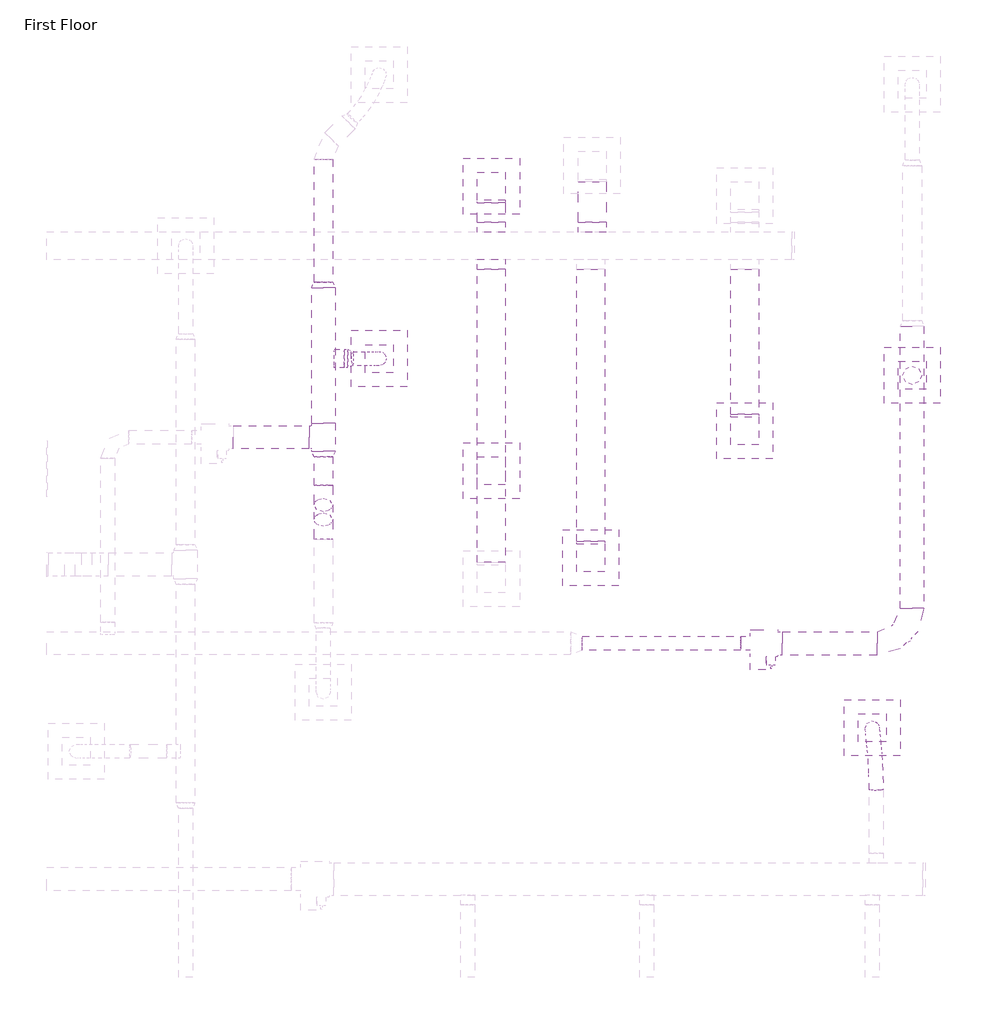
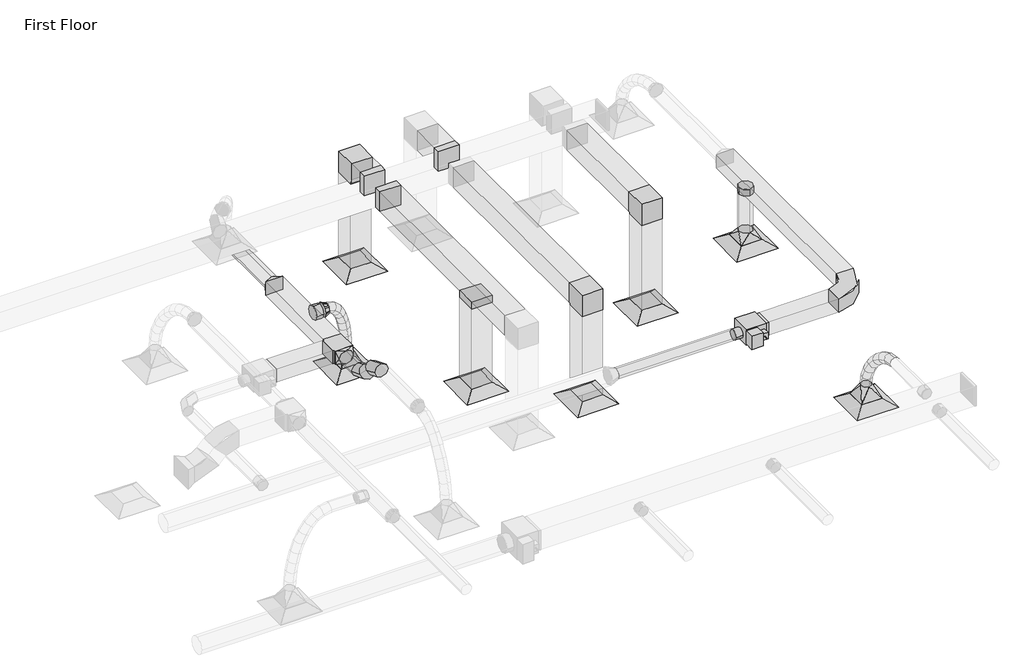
# One storey, part 57 of 61: 21 duct segments, 19 duct fittings, 7 air terminals, 1 proxy.
"""IFC4 building model written with IfcOpenShell, lengths in millimetres."""

from ifc_helpers import new_model, si_unit, point, frame, frame_2d, origin, place, context, project, spatial, polyline, circle_curve, ellipse_curve, trimmed, segment, composite_curve, outline, extrude, transform, mapped, element, save
from ifc_brep_helpers import plane_surface, cylinder_surface, advanced_brep
from components import m_exhaust_grill_er_600_x_600_face_300_x_300_connection_ff221211, m_vav_unit_single_duct_150_mm_ffdab17b, m_rectangular_elbow_mitered_standard_8eee5933, m_rectangular_elbow_radius_1_5_w_8951400e, m_rectangular_takeoff_standard_c00386d1, m_rectangular_takeoff_standard_b44bfa45, m_rectangular_tee_standard_9ab6ba4f, m_rectangular_to_round_transition_angle_45_degree_8f201c83, m_rectangular_to_round_transition_angle_45_degree_9bcfcd89, m_rectangular_to_round_transition_angle_45_degree_60daae35, m_round_elbow_1_5_d_f3829448, m_round_takeoff_standard_8efdd074, m_round_transition_angle_45_degree_6d7b59ce

model = new_model("IFC4")

# Units and contexts
model_context = context("Model", 3, world=origin())
ifc_project = project(units=[si_unit("LENGTHUNIT", "METRE", prefix="MILLI")], contexts=[model_context])

# Site, building, storey
site = spatial("IfcSite", under=ifc_project)
building = spatial("IfcBuilding", under=site)
storey = spatial("IfcBuildingStorey", under=building, Name="First Floor", Elevation=0.0)

# Air terminals
placement = place(None, origin())
m_exhaust_grill_er_600_x_600_face_300_x_300_connection_shape = m_exhaust_grill_er_600_x_600_face_300_x_300_connection_ff221211(model_context)
element("IfcAirTerminal", 1, ObjectType="M_Return Register : RR-600 x 600 Face 300 x 300 Connection", at=placement, inside=storey, context=model_context, shape_type="MappedRepresentation", body=[
    mapped(m_exhaust_grill_er_600_x_600_face_300_x_300_connection_shape, transform((-2290.8234501, 45229.9702326, 2680.0), x_axis=(1.0, 0.0, 0.0), y_axis=(0.0, 1.0, 0.0), z_axis=(0.0, 0.0, 1.0))),
])
element("IfcAirTerminal", 2, ObjectType="M_Return Register : RR-600 x 600 Face 300 x 300 Connection", at=placement, inside=storey, context=model_context, shape_type="MappedRepresentation", body=[
    mapped(m_exhaust_grill_er_600_x_600_face_300_x_300_connection_shape, transform((-3939.6335034, 43871.7194826, 2680.0), x_axis=(1.0, 0.0, 0.0), y_axis=(0.0, 1.0, 0.0), z_axis=(0.0, 0.0, 1.0))),
])
element("IfcAirTerminal", 3, ObjectType="M_Return Register : RR-600 x 600 Face 300 x 300 Connection", at=placement, inside=storey, context=model_context, shape_type="MappedRepresentation", body=[
    mapped(m_exhaust_grill_er_600_x_600_face_300_x_300_connection_shape, transform((-5002.6412206, 44802.4095969, 2680.0), x_axis=(1.0, 0.0, 0.0), y_axis=(0.0, 1.0, 0.0), z_axis=(0.0, 0.0, 1.0))),
])
element("IfcAirTerminal", 4, ObjectType="M_Return Register : RR-600 x 600 Face 300 x 300 Connection", at=placement, inside=storey, context=model_context, shape_type="MappedRepresentation", body=[
    mapped(m_exhaust_grill_er_600_x_600_face_300_x_300_connection_shape, transform((-5002.6412206, 47845.6191472, 2680.0), x_axis=(1.0, 0.0, 0.0), y_axis=(0.0, 1.0, 0.0), z_axis=(0.0, 0.0, 1.0))),
])
element("IfcAirTerminal", 5, ObjectType="M_Supply Diffuser : SD-600 x 600 Face 300 x 300 Connection", at=placement, inside=storey, context=model_context, shape_type="MappedRepresentation", body=[
    mapped(m_exhaust_grill_er_600_x_600_face_300_x_300_connection_shape, transform((-928.6121284, 42051.1053129, 2680.0), x_axis=(1.0, 0.0, 0.0), y_axis=(0.0, 1.0, 0.0), z_axis=(0.0, 0.0, 1.0))),
])
element("IfcAirTerminal", 6, ObjectType="M_Supply Diffuser : SD-600 x 600 Face 300 x 300 Connection", at=placement, inside=storey, context=model_context, shape_type="MappedRepresentation", body=[
    mapped(m_exhaust_grill_er_600_x_600_face_300_x_300_connection_shape, transform((-500.5154255, 45823.3479879, 2680.0), x_axis=(1.0, 0.0, 0.0), y_axis=(0.0, 1.0, 0.0), z_axis=(0.0, 0.0, 1.0))),
])
element("IfcAirTerminal", 7, ObjectType="M_Supply Diffuser : SD-600 x 600 Face 300 x 300 Connection", at=placement, inside=storey, context=model_context, shape_type="MappedRepresentation", body=[
    mapped(m_exhaust_grill_er_600_x_600_face_300_x_300_connection_shape, transform((-6203.7010885, 46003.833345, 2680.0), x_axis=(1.0, 0.0, 0.0), y_axis=(0.0, 1.0, 0.0), z_axis=(0.0, 0.0, 1.0))),
])

# Proxy
m_vav_unit_single_duct_150_mm_shape = m_vav_unit_single_duct_150_mm_ffdab17b(model_context)
element("IfcBuildingElementProxy", 8, Name="M_VAV Unit - Single Duct : 150 mm", ObjectType="M_VAV Unit - Single Duct : 150 mm", at=placement, inside=storey, context=model_context, shape_type="MappedRepresentation", body=[
    mapped(m_vav_unit_single_duct_150_mm_shape, transform((-2232.1936031, 42955.3220978, 3550.075), x_axis=(1.0, 0.0, 0.0), y_axis=(0.0, 1.0, 0.0), z_axis=(0.0, 0.0, 1.0))),
])

# Duct fittings
m_rectangular_elbow_mitered_standard_shape = m_rectangular_elbow_mitered_standard_8eee5933(model_context)
element("IfcDuctFitting", 9, ObjectType="M_Rectangular Elbow - Mitered : Standard", at=placement, inside=storey, context=model_context, shape_type="MappedRepresentation", body=[
    mapped(m_rectangular_elbow_mitered_standard_shape, transform((-5002.6412206, 47845.6191472, 4259.5), x_axis=(0.0, 0.0, 1.0), y_axis=(0.0, -1.0, 0.0), z_axis=(1.0, 0.0, 0.0))),
])
element("IfcDuctFitting", 10, ObjectType="M_Rectangular Elbow - Mitered : Standard", at=placement, inside=storey, context=model_context, shape_type="MappedRepresentation", body=[
    mapped(m_rectangular_elbow_mitered_standard_shape, transform((-2290.8234501, 45229.9702326, 4259.5), x_axis=(0.0, 0.0, 1.0), y_axis=(0.0, 1.0, 0.0), z_axis=(-1.0, 0.0, 0.0))),
])
element("IfcDuctFitting", 11, ObjectType="M_Rectangular Elbow - Mitered : Standard", at=placement, inside=storey, context=model_context, shape_type="MappedRepresentation", body=[
    mapped(m_rectangular_elbow_mitered_standard_shape, transform((-3939.6335034, 43871.7194826, 4259.5), x_axis=(0.0, 0.0, 1.0), y_axis=(0.0, 1.0, 0.0), z_axis=(-1.0, 0.0, 0.0))),
])
m_rectangular_elbow_radius_1_5_w_shape = m_rectangular_elbow_radius_1_5_w_8951400e(model_context)
element("IfcDuctFitting", 12, ObjectType="M_Rectangular Elbow - Radius : 1.5 W", at=placement, inside=storey, context=model_context, shape_type="MappedRepresentation", body=[
    mapped(m_rectangular_elbow_radius_1_5_w_shape, transform((-500.5154255, 42955.3220978, 3669.1), x_axis=(0.9999999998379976, 0.0, -1.8000138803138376e-05), y_axis=(0.0, 1.0000000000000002, 0.0), z_axis=(1.8000138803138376e-05, 0.0, 0.9999999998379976))),
])
m_rectangular_takeoff_standard_shape = m_rectangular_takeoff_standard_c00386d1(model_context)
element("IfcDuctFitting", 13, ObjectType="M_Rectangular Takeoff : Standard", at=placement, inside=storey, context=model_context, shape_type="MappedRepresentation", body=[
    mapped(m_rectangular_takeoff_standard_shape, transform((-3926.5709793, 47361.3321421, 4259.5), x_axis=(0.0, 1.0, 0.0), y_axis=(1.0, 0.0, 0.0), z_axis=(0.0, 0.0, -1.0))),
])
element("IfcDuctFitting", 14, ObjectType="M_Rectangular Takeoff : Standard", at=placement, inside=storey, context=model_context, shape_type="MappedRepresentation", body=[
    mapped(m_rectangular_takeoff_standard_shape, transform((-5002.6412206, 47361.3321421, 4259.5), x_axis=(0.0, 1.0, 0.0), y_axis=(1.0, 0.0, 0.0), z_axis=(0.0, 0.0, -1.0))),
])
element("IfcDuctFitting", 15, ObjectType="M_Rectangular Takeoff : Standard", at=placement, inside=storey, context=model_context, shape_type="MappedRepresentation", body=[
    mapped(m_rectangular_takeoff_standard_shape, transform((-5002.6412206, 44802.4095969, 4109.5), x_axis=(0.0, 0.0, -1.0), y_axis=(1.0, 0.0, 0.0), z_axis=(0.0, -1.0, 0.0))),
])
m_rectangular_takeoff_standard_2_shape = m_rectangular_takeoff_standard_b44bfa45(model_context)
element("IfcDuctFitting", 16, ObjectType="M_Rectangular Takeoff : Standard", at=placement, inside=storey, context=model_context, shape_type="MappedRepresentation", body=[
    mapped(m_rectangular_takeoff_standard_2_shape, transform((-5002.6412206, 47061.3321421, 4259.5), x_axis=(0.0, -1.0, 0.0), y_axis=(-1.0, 0.0, 0.0), z_axis=(0.0, 0.0, -1.0))),
])
m_rectangular_tee_standard_shape = m_rectangular_tee_standard_9ab6ba4f(model_context)
element("IfcDuctFitting", 17, ObjectType="M_Rectangular Tee : Standard", at=placement, inside=storey, context=model_context, shape_type="MappedRepresentation", body=[
    mapped(m_rectangular_tee_standard_shape, transform((-6801.5698472, 45161.7292765, 3669.1), x_axis=(0.0, -1.0, 0.0), y_axis=(0.9999999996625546, 0.0, -2.5978661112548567e-05), z_axis=(2.5978661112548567e-05, 0.0, 0.9999999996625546))),
])
m_rectangular_to_round_transition_angle_45_degree_shape = m_rectangular_to_round_transition_angle_45_degree_8f201c83(model_context)
element("IfcDuctFitting", 18, ObjectType="M_Rectangular to Round Transition - Angle : 45 Degree", at=placement, inside=storey, context=model_context, shape_type="MappedRepresentation", body=[
    mapped(m_rectangular_to_round_transition_angle_45_degree_shape, transform((-928.6121284, 42051.1053129, 2781.6), x_axis=(0.0, 0.0, 1.0), y_axis=(1.0, 0.0, 0.0), z_axis=(0.0, 1.0, 0.0))),
])
element("IfcDuctFitting", 19, ObjectType="M_Rectangular to Round Transition - Angle : 45 Degree", at=placement, inside=storey, context=model_context, shape_type="MappedRepresentation", body=[
    mapped(m_rectangular_to_round_transition_angle_45_degree_shape, transform((-6203.7010885, 46003.833345, 2781.6), x_axis=(0.0, 0.0, 1.0), y_axis=(1.0, 0.0, 0.0), z_axis=(0.0, 1.0, 0.0))),
])
m_rectangular_to_round_transition_angle_45_degree_2_shape = m_rectangular_to_round_transition_angle_45_degree_9bcfcd89(model_context)
element("IfcDuctFitting", 20, ObjectType="M_Rectangular to Round Transition - Angle : 45 Degree", at=placement, inside=storey, context=model_context, shape_type="MappedRepresentation", body=[
    mapped(m_rectangular_to_round_transition_angle_45_degree_2_shape, transform((-6801.5698472, 46761.7292765, 3669.1), x_axis=(0.0, 1.0, 0.0), y_axis=(-1.0, 0.0, 0.0), z_axis=(0.0, 0.0, 1.0))),
])
element("IfcDuctFitting", 21, ObjectType="M_Rectangular to Round Transition - Angle : 45 Degree", at=placement, inside=storey, context=model_context, shape_type="MappedRepresentation", body=[
    mapped(m_rectangular_to_round_transition_angle_45_degree_2_shape, transform((-6801.5698472, 45011.7292765, 3669.1), x_axis=(0.0, -1.0, 0.0), y_axis=(0.9999999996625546, 0.0, -2.597866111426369e-05), z_axis=(2.597866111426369e-05, 0.0, 0.9999999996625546))),
])
m_rectangular_to_round_transition_angle_45_degree_3_shape = m_rectangular_to_round_transition_angle_45_degree_60daae35(model_context)
element("IfcDuctFitting", 22, ObjectType="M_Rectangular to Round Transition - Angle : 45 Degree", at=placement, inside=storey, context=model_context, shape_type="MappedRepresentation", body=[
    mapped(m_rectangular_to_round_transition_angle_45_degree_3_shape, transform((-500.5154255, 45823.3479879, 2781.6), x_axis=(0.0, 0.0, 1.0), y_axis=(-1.0, 0.0, 0.0), z_axis=(0.0, -1.0, 0.0))),
])
m_round_elbow_1_5_d_shape = m_round_elbow_1_5_d_f3829448(model_context)
element("IfcDuctFitting", 23, ObjectType="M_Round Elbow : 1.5 D", at=placement, inside=storey, context=model_context, shape_type="MappedRepresentation", body=[
    mapped(m_round_elbow_1_5_d_shape, transform((-6801.5698472, 44524.9940525, 3669.1), x_axis=(0.0, -1.0, 0.0), y_axis=(0.0, 0.0, 1.0), z_axis=(-1.0, 0.0, 0.0))),
])
element("IfcDuctFitting", 24, ObjectType="M_Round Elbow : 1.5 D", at=placement, inside=storey, context=model_context, shape_type="MappedRepresentation", body=[
    mapped(m_round_elbow_1_5_d_shape, transform((-6801.5698472, 44194.0940525, 4000.0), x_axis=(0.0, -0.7071067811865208, 0.7071067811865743), y_axis=(0.0, -0.7071067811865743, -0.7071067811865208), z_axis=(1.0, 0.0, 0.0))),
])
m_round_takeoff_standard_shape = m_round_takeoff_standard_8efdd074(model_context)
element("IfcDuctFitting", 25, ObjectType="M_Round Takeoff : Standard", at=placement, inside=storey, context=model_context, shape_type="MappedRepresentation", body=[
    mapped(m_round_takeoff_standard_shape, transform((-500.5154255, 45823.3479879, 3569.1), x_axis=(0.0, 0.0, -1.0), y_axis=(1.0, 0.0, 0.0), z_axis=(0.0, -1.0, 0.0))),
])
element("IfcDuctFitting", 26, ObjectType="M_Round Takeoff : Standard", at=placement, inside=storey, context=model_context, shape_type="MappedRepresentation", body=[
    mapped(m_round_takeoff_standard_shape, transform((-6676.5698472, 46003.833345, 3669.1), x_axis=(1.0, 0.0, 0.0), y_axis=(0.0, -1.0, 0.0), z_axis=(0.0, 0.0, -1.0))),
])
m_round_transition_angle_45_degree_shape = m_round_transition_angle_45_degree_6d7b59ce(model_context)
element("IfcDuctFitting", 27, ObjectType="M_Round Transition - Angle : 45 Degree", at=placement, inside=storey, context=model_context, shape_type="MappedRepresentation", body=[
    mapped(m_round_transition_angle_45_degree_shape, transform((-6541.5698472, 46003.833345, 3669.1), x_axis=(1.0, 0.0, 0.0), y_axis=(0.0, 1.0, 0.0), z_axis=(0.0, 0.0, 1.0))),
])

# Duct segments
element("IfcDuctSegment", 28, ObjectType="Flex - Round", at=placement, inside=storey, context=model_context, shape_type="AdvancedBrep", body=[
    advanced_brep(
    [(-960.3757, 41390.9492283, 3669.1), (-885.1801664, 41380.331664, 3595.0533994), (-810.3982784, 41393.5517308, 3669.1), (-885.593812, 41404.1692952, 3743.1466006), (-962.7529481, 41527.9456521, 3647.0419073), (-887.3992617, 41508.2140324, 3574.4627806), (-812.8098213, 41532.5245015, 3646.7236913), (-888.1635077, 41552.2561212, 3719.302818), (-1003.4773989, 42046.6599466, 2963.3217523), (-932.9239586, 42125.2556275, 2973.0650055), (-853.7468579, 42055.5506792, 2962.0102821), (-924.3002983, 41976.9549982, 2952.2670288), (-968.8604692, 41660.0751678, 3586.2621482), (-892.8053952, 41625.1697984, 3520.6629673), (-819.05234, 41667.5745413, 3584.6004871), (-895.1074139, 41702.4799108, 3650.199668), (-977.253379, 41782.3987263, 3493.9319472), (-900.4284142, 41736.2724814, 3436.8023179), (-827.5462192, 41791.3696916, 3491.1595241), (-904.3711841, 41837.4959366, 3548.2891534), (-986.4298738, 41888.5257717, 3377.704071), (-908.839545, 41833.5480187, 3330.2684078), (-836.7687632, 41898.0293003, 3374.348397), (-914.359092, 41953.0070533, 3421.7840602), (-994.8770723, 41972.1551276, 3245.2912016), (-916.5361819, 41909.7466287, 3209.6208614), (-845.2083538, 41981.5833356, 3242.0547849), (-923.5492442, 42043.9918345, 3277.7251251), (-1001.0757879, 42027.0193162, 3104.3656891), (-922.0543978, 41958.5877855, 3084.1662574), (-851.359678, 42036.0280676, 3102.2066991), (-930.3810681, 42104.4595983, 3122.4061308)],
    [
        (0, 1, circle_curve(frame((-885.3869892, 41392.2504796, 3669.1), z_axis=(0.017129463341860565, -0.9871393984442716, 0.1589414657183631), x_axis=(-0.9998494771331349, -0.01735001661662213, 0.0)), 75.0)),
        (1, 2, circle_curve(frame((-885.3869892, 41392.2504796, 3669.1), z_axis=(0.017129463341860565, -0.9871393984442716, 0.1589414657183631), x_axis=(-0.9998494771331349, -0.01735001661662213, 0.0)), 75.0)),
        (2, 3, circle_curve(frame((-885.3869892, 41392.2504796, 3669.1), z_axis=(0.017129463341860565, -0.9871393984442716, 0.1589414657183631), x_axis=(-0.9998494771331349, -0.01735001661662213, 0.0)), 75.0)),
        (3, 0, circle_curve(frame((-885.3869892, 41392.2504796, 3669.1), z_axis=(0.017129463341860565, -0.9871393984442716, 0.1589414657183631), x_axis=(-0.9998494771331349, -0.01735001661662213, 0.0)), 75.0)),
        (0, 4),
        (4, 5, ellipse_curve(frame((-887.7813847, 41530.2350768, 3646.8827993), z_axis=(0.029819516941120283, -0.9562775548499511, 0.29093647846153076), x_axis=(-0.09139011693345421, -0.2924551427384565, -0.9519022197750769)), 75.7016091, 75.0)),
        (5, 1),
        (5, 6, ellipse_curve(frame((-887.7813847, 41530.2350768, 3646.8827993), z_axis=(0.029819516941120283, -0.9562775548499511, 0.29093647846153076), x_axis=(-0.09139011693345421, -0.2924551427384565, -0.9519022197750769)), 75.7016091, 75.0)),
        (6, 2),
        (6, 7, ellipse_curve(frame((-887.7813847, 41530.2350768, 3646.8827993), z_axis=(0.029819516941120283, -0.9562775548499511, 0.29093647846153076), x_axis=(-0.09139011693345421, -0.2924551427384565, -0.9519022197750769)), 75.7016091, 75.0)),
        (7, 3),
        (7, 4, ellipse_curve(frame((-887.7813847, 41530.2350768, 3646.8827993), z_axis=(0.029819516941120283, -0.9562775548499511, 0.29093647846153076), x_axis=(-0.09139011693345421, -0.2924551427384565, -0.9519022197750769)), 75.7016091, 75.0)),
        (8, 9, circle_curve(frame((-928.6121284, 42051.1053129, 2962.6660172), z_axis=(-0.016862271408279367, 0.13790145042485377, -0.9903024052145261), x_axis=(-0.9982036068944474, -0.05927155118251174, 0.008743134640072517)), 75.0)),
        (9, 10, circle_curve(frame((-928.6121284, 42051.1053129, 2962.6660172), z_axis=(-0.016862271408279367, 0.13790145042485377, -0.9903024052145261), x_axis=(-0.9982036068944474, -0.05927155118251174, 0.008743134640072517)), 75.0)),
        (10, 11, circle_curve(frame((-928.6121284, 42051.1053129, 2962.6660172), z_axis=(-0.016862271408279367, 0.13790145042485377, -0.9903024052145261), x_axis=(-0.9982036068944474, -0.05927155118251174, 0.008743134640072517)), 75.0)),
        (11, 8, circle_curve(frame((-928.6121284, 42051.1053129, 2962.6660172), z_axis=(-0.016862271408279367, 0.13790145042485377, -0.9903024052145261), x_axis=(-0.9982036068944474, -0.05927155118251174, 0.008743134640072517)), 75.0)),
        (4, 12),
        (12, 13, ellipse_curve(frame((-893.9564046, 41663.8248546, 3585.4313176), z_axis=(0.04860113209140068, -0.8573001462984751, 0.512517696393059), x_axis=(-0.05914747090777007, -0.5146938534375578, -0.8553314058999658)), 75.437701, 75.0)),
        (13, 5),
        (13, 14, ellipse_curve(frame((-893.9564046, 41663.8248546, 3585.4313176), z_axis=(0.04860113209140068, -0.8573001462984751, 0.512517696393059), x_axis=(-0.05914747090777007, -0.5146938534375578, -0.8553314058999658)), 75.437701, 75.0)),
        (14, 6),
        (14, 15, ellipse_curve(frame((-893.9564046, 41663.8248546, 3585.4313176), z_axis=(0.04860113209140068, -0.8573001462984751, 0.512517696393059), x_axis=(-0.05914747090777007, -0.5146938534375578, -0.8553314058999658)), 75.437701, 75.0)),
        (15, 7),
        (15, 12, ellipse_curve(frame((-893.9564046, 41663.8248546, 3585.4313176), z_axis=(0.04860113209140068, -0.8573001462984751, 0.512517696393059), x_axis=(-0.05914747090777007, -0.5146938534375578, -0.8553314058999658)), 75.437701, 75.0)),
        (12, 16),
        (16, 17, ellipse_curve(frame((-902.3997991, 41786.884209, 3492.5457357), z_axis=(0.05668286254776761, -0.7381749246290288, 0.6722237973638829), x_axis=(-0.01918059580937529, -0.6739871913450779, -0.738493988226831)), 75.3184009, 75.0)),
        (17, 13),
        (17, 18, ellipse_curve(frame((-902.3997991, 41786.884209, 3492.5457357), z_axis=(0.05668286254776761, -0.7381749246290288, 0.6722237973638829), x_axis=(-0.01918059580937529, -0.6739871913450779, -0.738493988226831)), 75.3184009, 75.0)),
        (18, 14),
        (18, 19, ellipse_curve(frame((-902.3997991, 41786.884209, 3492.5457357), z_axis=(0.05668286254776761, -0.7381749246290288, 0.6722237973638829), x_axis=(-0.01918059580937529, -0.6739871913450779, -0.738493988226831)), 75.3184009, 75.0)),
        (19, 15),
        (19, 16, ellipse_curve(frame((-902.3997991, 41786.884209, 3492.5457357), z_axis=(0.05668286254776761, -0.7381749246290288, 0.6722237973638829), x_axis=(-0.01918059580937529, -0.6739871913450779, -0.738493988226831)), 75.3184009, 75.0)),
        (16, 20),
        (20, 21, ellipse_curve(frame((-911.5993185, 41893.277536, 3376.026234), z_axis=(0.05625088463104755, -0.6055381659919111, 0.793825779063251), x_axis=(0.024660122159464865, -0.793999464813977, -0.6074180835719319)), 75.2928725, 75.0)),
        (21, 17),
        (21, 22, ellipse_curve(frame((-911.5993185, 41893.277536, 3376.026234), z_axis=(0.05625088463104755, -0.6055381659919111, 0.793825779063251), x_axis=(0.024660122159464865, -0.793999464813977, -0.6074180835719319)), 75.2928725, 75.0)),
        (22, 18),
        (22, 23, ellipse_curve(frame((-911.5993185, 41893.277536, 3376.026234), z_axis=(0.05625088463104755, -0.6055381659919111, 0.793825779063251), x_axis=(0.024660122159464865, -0.793999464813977, -0.6074180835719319)), 75.2928725, 75.0)),
        (23, 19),
        (23, 20, ellipse_curve(frame((-911.5993185, 41893.277536, 3376.026234), z_axis=(0.05625088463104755, -0.6055381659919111, 0.793825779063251), x_axis=(0.024660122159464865, -0.793999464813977, -0.6074180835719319)), 75.2928725, 75.0)),
        (20, 24),
        (24, 25, ellipse_curve(frame((-920.0427131, 41976.8692316, 3243.6729933), z_axis=(0.047626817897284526, -0.4499296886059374, 0.891793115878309), x_axis=(0.06721855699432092, -0.889338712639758, -0.45228123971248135)), 75.3479261, 75.0)),
        (25, 21),
        (25, 26, ellipse_curve(frame((-920.0427131, 41976.8692316, 3243.6729933), z_axis=(0.047626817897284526, -0.4499296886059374, 0.891793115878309), x_axis=(0.06721855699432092, -0.889338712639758, -0.45228123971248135)), 75.3479261, 75.0)),
        (26, 22),
        (26, 27, ellipse_curve(frame((-920.0427131, 41976.8692316, 3243.6729933), z_axis=(0.047626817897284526, -0.4499296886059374, 0.891793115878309), x_axis=(0.06721855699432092, -0.889338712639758, -0.45228123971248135)), 75.3479261, 75.0)),
        (27, 23),
        (27, 24, ellipse_curve(frame((-920.0427131, 41976.8692316, 3243.6729933), z_axis=(0.047626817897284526, -0.4499296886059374, 0.891793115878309), x_axis=(0.06721855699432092, -0.889338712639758, -0.45228123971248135)), 75.3479261, 75.0)),
        (24, 28),
        (28, 29, ellipse_curve(frame((-926.2177329, 42031.5236919, 3103.2861941), z_axis=(0.029107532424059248, -0.2519163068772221, 0.9673111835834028), x_axis=(0.10317714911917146, -0.961794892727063, -0.2535844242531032)), 75.5164544, 75.0)),
        (29, 25),
        (29, 30, ellipse_curve(frame((-926.2177329, 42031.5236919, 3103.2861941), z_axis=(0.029107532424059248, -0.2519163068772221, 0.9673111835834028), x_axis=(0.10317714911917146, -0.961794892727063, -0.2535844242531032)), 75.5164544, 75.0)),
        (30, 26),
        (30, 31, ellipse_curve(frame((-926.2177329, 42031.5236919, 3103.2861941), z_axis=(0.029107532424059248, -0.2519163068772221, 0.9673111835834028), x_axis=(0.10317714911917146, -0.961794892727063, -0.2535844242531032)), 75.5164544, 75.0)),
        (31, 27),
        (31, 28, ellipse_curve(frame((-926.2177329, 42031.5236919, 3103.2861941), z_axis=(0.029107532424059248, -0.2519163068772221, 0.9673111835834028), x_axis=(0.10317714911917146, -0.961794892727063, -0.2535844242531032)), 75.5164544, 75.0)),
        (28, 8),
        (11, 29),
        (10, 30),
        (9, 31),
    ],
    [
        plane_surface(frame((-885.3869892, 41404.1728388, 3743.146319), z_axis=(0.017129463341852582, -0.9871393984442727, 0.15894146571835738), x_axis=(0.9998532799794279, 0.016911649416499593, -0.002722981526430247))),
        cylinder_surface(frame((-885.3869892, 41392.2504796, 3669.1), z_axis=(0.01712946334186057, -0.9871393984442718, 0.15894146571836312), x_axis=(-0.9998494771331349, -0.01735001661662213, 0.0)), 75.0),
        plane_surface(frame((-928.6121284, 42125.3885547, 2973.0100967), z_axis=(-0.016862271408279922, 0.13790145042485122, -0.9903024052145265), x_axis=(0.9998578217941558, 0.002325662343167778, -0.01670112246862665))),
        cylinder_surface(frame((-887.7813847, 41530.2350768, 3646.8827993), z_axis=(0.041956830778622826, -0.907689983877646, 0.4175386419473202), x_axis=(-0.9990608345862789, -0.0426408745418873, 0.007694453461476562)), 75.0),
        cylinder_surface(frame((-893.9564046, 41663.8248546, 3585.4313176), z_axis=(0.054681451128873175, -0.7969619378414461, 0.6015493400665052), x_axis=(-0.9982777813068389, -0.056453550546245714, 0.015952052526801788)), 75.0),
        cylinder_surface(frame((-902.3997991, 41786.884209, 3492.5457357), z_axis=(0.058205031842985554, -0.6731467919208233, 0.7372147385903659), x_axis=(-0.9978028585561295, -0.0626384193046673, 0.02158434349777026)), 75.0),
        cylinder_surface(frame((-911.5993185, 41893.277536, 3376.026234), z_axis=(0.053859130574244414, -0.5332187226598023, 0.8442612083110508), x_axis=(-0.9976832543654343, -0.06392595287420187, 0.02327222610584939)), 75.0),
        cylinder_surface(frame((-920.0427131, 41976.8692316, 3243.6729933), z_axis=(0.040954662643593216, -0.3624854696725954, 0.931089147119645), x_axis=(-0.9978737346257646, -0.062126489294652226, 0.019705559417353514)), 75.0),
        cylinder_surface(frame((-926.2177329, 42031.5236919, 3103.2861941), z_axis=(0.016862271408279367, -0.13790145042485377, 0.9903024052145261), x_axis=(-0.9982036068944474, -0.05927155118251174, 0.008743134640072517)), 75.0),
    ],
    [
        (0, [[1, 2, 3, 4]]),
        (1, [[-1, 5, 6, 7]]),
        (1, [[-2, -7, 8, 9]]),
        (1, [[-3, -9, 10, 11]]),
        (1, [[-4, -11, 12, -5]]),
        (2, [[13, 14, 15, 16]]),
        (3, [[-6, 17, 18, 19]]),
        (3, [[-8, -19, 20, 21]]),
        (3, [[-10, -21, 22, 23]]),
        (3, [[-12, -23, 24, -17]]),
        (4, [[-18, 25, 26, 27]]),
        (4, [[-20, -27, 28, 29]]),
        (4, [[-22, -29, 30, 31]]),
        (4, [[-24, -31, 32, -25]]),
        (5, [[-26, 33, 34, 35]]),
        (5, [[-28, -35, 36, 37]]),
        (5, [[-30, -37, 38, 39]]),
        (5, [[-32, -39, 40, -33]]),
        (6, [[-34, 41, 42, 43]]),
        (6, [[-36, -43, 44, 45]]),
        (6, [[-38, -45, 46, 47]]),
        (6, [[-40, -47, 48, -41]]),
        (7, [[-42, 49, 50, 51]]),
        (7, [[-44, -51, 52, 53]]),
        (7, [[-46, -53, 54, 55]]),
        (7, [[-48, -55, 56, -49]]),
        (8, [[-50, 57, -16, 58]]),
        (8, [[-52, -58, -15, 59]]),
        (8, [[-54, -59, -14, 60]]),
        (8, [[-56, -60, -13, -57]]),
    ],
),
])
element("IfcDuctSegment", 29, ObjectType="Flex - Round", at=placement, inside=storey, context=model_context, shape_type="AdvancedBrep", body=[
    advanced_brep(
    [(-6481.2145081, 46078.833345, 3669.1), (-6498.4585969, 46003.833345, 3596.1093061), (-6481.2145081, 45928.833345, 3669.1), (-6463.9704193, 46003.833345, 3742.0906939), (-6396.6525871, 46078.833345, 3649.1222028), (-6431.1669369, 46003.833345, 3580.2116169), (-6396.6525871, 45928.833345, 3649.1222028), (-6362.1382373, 46003.833345, 3718.0327888), (-6203.7010885, 46078.833345, 2962.6660172), (-6128.7095545, 46003.833345, 2963.7928818), (-6203.7010885, 45928.833345, 2962.6660172), (-6278.6926225, 46003.833345, 2961.5391526), (-6331.1203593, 46078.833345, 3594.2972492), (-6389.0166462, 46003.833345, 3544.9482387), (-6331.1203593, 45928.833345, 3594.2972492), (-6273.2240724, 46003.833345, 3643.6462596), (-6282.2276559, 46078.833345, 3512.2877957), (-6350.6718294, 46003.833345, 3480.6311269), (-6282.2276559, 45928.833345, 3512.2877957), (-6213.7834824, 46003.833345, 3543.9444645), (-6247.5843077, 46078.833345, 3410.7564992), (-6320.1489754, 46003.833345, 3391.176005), (-6247.5843077, 45928.833345, 3410.7564992), (-6175.01964, 46003.833345, 3430.3369934), (-6224.8001458, 46078.833345, 3297.3660164), (-6298.9627349, 46003.833345, 3285.7379355), (-6224.8001458, 45928.833345, 3297.3660164), (-6150.6375568, 46003.833345, 3308.9940972), (-6211.4850013, 46078.833345, 3179.7790039), (-6286.2542197, 46003.833345, 3173.5081103), (-6211.4850013, 45928.833345, 3179.7790039), (-6136.715783, 46003.833345, 3186.0498975), (-6205.2487052, 46078.833345, 3065.6581186), (-6280.2179432, 46003.833345, 3063.0474774), (-6205.2487052, 45928.833345, 3065.6581186), (-6130.2794673, 46003.833345, 3068.2687598)],
    [
        (0, 1, circle_curve(frame((-6481.2145081, 46003.833345, 3669.1), z_axis=(-0.9732092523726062, 0.0, 0.22992118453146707), x_axis=(0.0, 1.0, 0.0)), 75.0)),
        (1, 2, circle_curve(frame((-6481.2145081, 46003.833345, 3669.1), z_axis=(-0.9732092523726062, 0.0, 0.22992118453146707), x_axis=(0.0, 1.0, 0.0)), 75.0)),
        (2, 3, circle_curve(frame((-6481.2145081, 46003.833345, 3669.1), z_axis=(-0.9732092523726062, 0.0, 0.22992118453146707), x_axis=(0.0, 1.0, 0.0)), 75.0)),
        (3, 0, circle_curve(frame((-6481.2145081, 46003.833345, 3669.1), z_axis=(-0.9732092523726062, 0.0, 0.22992118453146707), x_axis=(0.0, 1.0, 0.0)), 75.0)),
        (0, 4),
        (4, 5, ellipse_curve(frame((-6396.6525871, 46003.833345, 3649.1222028), z_axis=(-0.8941204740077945, 0.0, 0.44782650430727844), x_axis=(-0.4478265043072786, 0.0, -0.8941204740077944)), 77.0708064, 75.0)),
        (5, 1),
        (5, 6, ellipse_curve(frame((-6396.6525871, 46003.833345, 3649.1222028), z_axis=(-0.8941204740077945, 0.0, 0.44782650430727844), x_axis=(-0.4478265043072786, 0.0, -0.8941204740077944)), 77.0708064, 75.0)),
        (6, 2),
        (6, 7, ellipse_curve(frame((-6396.6525871, 46003.833345, 3649.1222028), z_axis=(-0.8941204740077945, 0.0, 0.44782650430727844), x_axis=(-0.4478265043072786, 0.0, -0.8941204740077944)), 77.0708064, 75.0)),
        (7, 3),
        (7, 4, ellipse_curve(frame((-6396.6525871, 46003.833345, 3649.1222028), z_axis=(-0.8941204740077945, 0.0, 0.44782650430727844), x_axis=(-0.4478265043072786, 0.0, -0.8941204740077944)), 77.0708064, 75.0)),
        (8, 9, circle_curve(frame((-6203.7010885, 46003.833345, 2962.6660172), z_axis=(0.015024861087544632, 0.0, -0.9998871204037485), x_axis=(0.0, 1.0, 0.0)), 75.0)),
        (9, 10, circle_curve(frame((-6203.7010885, 46003.833345, 2962.6660172), z_axis=(0.015024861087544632, 0.0, -0.9998871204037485), x_axis=(0.0, 1.0, 0.0)), 75.0)),
        (10, 11, circle_curve(frame((-6203.7010885, 46003.833345, 2962.6660172), z_axis=(0.015024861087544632, 0.0, -0.9998871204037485), x_axis=(0.0, 1.0, 0.0)), 75.0)),
        (11, 8, circle_curve(frame((-6203.7010885, 46003.833345, 2962.6660172), z_axis=(0.015024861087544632, 0.0, -0.9998871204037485), x_axis=(0.0, 1.0, 0.0)), 75.0)),
        (4, 12),
        (12, 13, ellipse_curve(frame((-6331.1203593, 46003.833345, 3594.2972492), z_axis=(-0.6486945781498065, 0.0, 0.7610488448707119), x_axis=(-0.7610488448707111, 0.0, -0.6486945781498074)), 76.0743378, 75.0)),
        (13, 5),
        (13, 14, ellipse_curve(frame((-6331.1203593, 46003.833345, 3594.2972492), z_axis=(-0.6486945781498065, 0.0, 0.7610488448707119), x_axis=(-0.7610488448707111, 0.0, -0.6486945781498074)), 76.0743378, 75.0)),
        (14, 6),
        (14, 15, ellipse_curve(frame((-6331.1203593, 46003.833345, 3594.2972492), z_axis=(-0.6486945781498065, 0.0, 0.7610488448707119), x_axis=(-0.7610488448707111, 0.0, -0.6486945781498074)), 76.0743378, 75.0)),
        (15, 7),
        (15, 12, ellipse_curve(frame((-6331.1203593, 46003.833345, 3594.2972492), z_axis=(-0.6486945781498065, 0.0, 0.7610488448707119), x_axis=(-0.7610488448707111, 0.0, -0.6486945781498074)), 76.0743378, 75.0)),
        (12, 16),
        (16, 17, ellipse_curve(frame((-6282.2276559, 46003.833345, 3512.2877957), z_axis=(-0.41979103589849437, 0.0, 0.907620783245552), x_axis=(-0.9076207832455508, 0.0, -0.4197910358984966)), 75.4105402, 75.0)),
        (17, 13),
        (17, 18, ellipse_curve(frame((-6282.2276559, 46003.833345, 3512.2877957), z_axis=(-0.41979103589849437, 0.0, 0.907620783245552), x_axis=(-0.9076207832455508, 0.0, -0.4197910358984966)), 75.4105402, 75.0)),
        (18, 14),
        (18, 19, ellipse_curve(frame((-6282.2276559, 46003.833345, 3512.2877957), z_axis=(-0.41979103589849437, 0.0, 0.907620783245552), x_axis=(-0.9076207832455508, 0.0, -0.4197910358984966)), 75.4105402, 75.0)),
        (19, 15),
        (19, 16, ellipse_curve(frame((-6282.2276559, 46003.833345, 3512.2877957), z_axis=(-0.41979103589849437, 0.0, 0.907620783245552), x_axis=(-0.9076207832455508, 0.0, -0.4197910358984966)), 75.4105402, 75.0)),
        (16, 20),
        (20, 21, ellipse_curve(frame((-6247.5843077, 46003.833345, 3410.7564992), z_axis=(-0.26051745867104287, 0.0, 0.9654691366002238), x_axis=(-0.9654691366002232, 0.0, -0.26051745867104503)), 75.1600077, 75.0)),
        (21, 17),
        (21, 22, ellipse_curve(frame((-6247.5843077, 46003.833345, 3410.7564992), z_axis=(-0.26051745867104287, 0.0, 0.9654691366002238), x_axis=(-0.9654691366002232, 0.0, -0.26051745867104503)), 75.1600077, 75.0)),
        (22, 18),
        (22, 23, ellipse_curve(frame((-6247.5843077, 46003.833345, 3410.7564992), z_axis=(-0.26051745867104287, 0.0, 0.9654691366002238), x_axis=(-0.9654691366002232, 0.0, -0.26051745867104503)), 75.1600077, 75.0)),
        (23, 19),
        (23, 20, ellipse_curve(frame((-6247.5843077, 46003.833345, 3410.7564992), z_axis=(-0.26051745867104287, 0.0, 0.9654691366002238), x_axis=(-0.9654691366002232, 0.0, -0.26051745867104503)), 75.1600077, 75.0)),
        (20, 24),
        (24, 25, ellipse_curve(frame((-6224.8001458, 46003.833345, 3297.3660164), z_axis=(-0.1548992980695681, 0.0, 0.9879302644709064), x_axis=(-0.9879302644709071, 0.0, -0.15489929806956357)), 75.0686478, 75.0)),
        (25, 21),
        (25, 26, ellipse_curve(frame((-6224.8001458, 46003.833345, 3297.3660164), z_axis=(-0.1548992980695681, 0.0, 0.9879302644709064), x_axis=(-0.9879302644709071, 0.0, -0.15489929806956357)), 75.0686478, 75.0)),
        (26, 22),
        (26, 27, ellipse_curve(frame((-6224.8001458, 46003.833345, 3297.3660164), z_axis=(-0.1548992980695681, 0.0, 0.9879302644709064), x_axis=(-0.9879302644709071, 0.0, -0.15489929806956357)), 75.0686478, 75.0)),
        (27, 23),
        (27, 24, ellipse_curve(frame((-6224.8001458, 46003.833345, 3297.3660164), z_axis=(-0.1548992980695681, 0.0, 0.9879302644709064), x_axis=(-0.9879302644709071, 0.0, -0.15489929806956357)), 75.0686478, 75.0)),
        (24, 28),
        (28, 29, ellipse_curve(frame((-6211.4850013, 46003.833345, 3179.7790039), z_axis=(-0.08357655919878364, 0.0, 0.9965013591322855), x_axis=(-0.9965013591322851, 1.258766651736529e-12, -0.0835765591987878)), 75.0317274, 75.0)),
        (29, 25),
        (29, 30, ellipse_curve(frame((-6211.4850013, 46003.833345, 3179.7790039), z_axis=(-0.08357655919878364, 0.0, 0.9965013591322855), x_axis=(-0.9965013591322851, 1.258766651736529e-12, -0.0835765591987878)), 75.0317274, 75.0)),
        (30, 26),
        (30, 31, ellipse_curve(frame((-6211.4850013, 46003.833345, 3179.7790039), z_axis=(-0.08357655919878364, 0.0, 0.9965013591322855), x_axis=(-0.9965013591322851, 1.258766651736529e-12, -0.0835765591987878)), 75.0317274, 75.0)),
        (31, 27),
        (31, 28, ellipse_curve(frame((-6211.4850013, 46003.833345, 3179.7790039), z_axis=(-0.08357655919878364, 0.0, 0.9965013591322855), x_axis=(-0.9965013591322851, 1.258766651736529e-12, -0.0835765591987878)), 75.0317274, 75.0)),
        (28, 32),
        (32, 33, ellipse_curve(frame((-6205.2487052, 46003.833345, 3065.6581186), z_axis=(-0.034801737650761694, 0.0, 0.9993942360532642), x_axis=(-0.9993942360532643, -2.1257438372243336e-12, -0.034801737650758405)), 75.0146792, 75.0)),
        (33, 29),
        (33, 34, ellipse_curve(frame((-6205.2487052, 46003.833345, 3065.6581186), z_axis=(-0.034801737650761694, 0.0, 0.9993942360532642), x_axis=(-0.9993942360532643, -2.1257438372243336e-12, -0.034801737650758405)), 75.0146792, 75.0)),
        (34, 30),
        (34, 35, ellipse_curve(frame((-6205.2487052, 46003.833345, 3065.6581186), z_axis=(-0.034801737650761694, 0.0, 0.9993942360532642), x_axis=(-0.9993942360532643, -2.1257438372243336e-12, -0.034801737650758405)), 75.0146792, 75.0)),
        (35, 31),
        (35, 32, ellipse_curve(frame((-6205.2487052, 46003.833345, 3065.6581186), z_axis=(-0.034801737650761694, 0.0, 0.9993942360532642), x_axis=(-0.9993942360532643, -2.1257438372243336e-12, -0.034801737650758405)), 75.0146792, 75.0)),
        (32, 8),
        (11, 33),
        (10, 34),
        (9, 35),
    ],
    [
        plane_surface(frame((-6481.2145081, 46078.833345, 3669.1), z_axis=(-0.9732092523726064, 0.0, 0.22992118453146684), x_axis=(0.22992118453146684, 0.0, 0.9732092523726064))),
        cylinder_surface(frame((-6481.2145081, 46003.833345, 3669.1), z_axis=(-0.9732092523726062, 0.0, 0.22992118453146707), x_axis=(0.0, 1.0, 0.0)), 75.0),
        plane_surface(frame((-6203.7010885, 46078.833345, 2962.6660172), z_axis=(0.01502486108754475, 0.0, -0.9998871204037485), x_axis=(0.9998871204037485, 0.0, 0.01502486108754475))),
        cylinder_surface(frame((-6396.6525871, 46003.833345, 3649.1222028), z_axis=(-0.76698366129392, 0.0, 0.6416666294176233), x_axis=(0.0, 1.0, 0.0)), 75.0),
        cylinder_surface(frame((-6331.1203593, 46003.833345, 3594.2972492), z_axis=(-0.512083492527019, 0.0, 0.8589356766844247), x_axis=(0.0, 1.0, 0.0)), 75.0),
        cylinder_surface(frame((-6282.2276559, 46003.833345, 3512.2877957), z_axis=(-0.3229278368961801, 0.0, 0.9464235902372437), x_axis=(0.0, 1.0, 0.0)), 75.0),
        cylinder_surface(frame((-6247.5843077, 46003.833345, 3410.7564992), z_axis=(-0.19699785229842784, 0.0, 0.9804039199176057), x_axis=(0.0, 1.0, 0.0)), 75.0),
        cylinder_surface(frame((-6224.8001458, 46003.833345, 3297.3660164), z_axis=(-0.11251744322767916, 0.0, 0.9936497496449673), x_axis=(0.0, 1.0, 0.0)), 75.0),
        cylinder_surface(frame((-6211.4850013, 46003.833345, 3179.7790039), z_axis=(-0.05456499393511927, 0.0, 0.9985102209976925), x_axis=(0.0, 1.0, 0.0)), 75.0),
        cylinder_surface(frame((-6205.2487052, 46003.833345, 3065.6581186), z_axis=(-0.015024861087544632, 0.0, 0.9998871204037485), x_axis=(0.0, 1.0, 0.0)), 75.0),
    ],
    [
        (0, [[1, 2, 3, 4]]),
        (1, [[-1, 5, 6, 7]]),
        (1, [[-2, -7, 8, 9]]),
        (1, [[-3, -9, 10, 11]]),
        (1, [[-4, -11, 12, -5]]),
        (2, [[13, 14, 15, 16]]),
        (3, [[-6, 17, 18, 19]]),
        (3, [[-8, -19, 20, 21]]),
        (3, [[-10, -21, 22, 23]]),
        (3, [[-12, -23, 24, -17]]),
        (4, [[-18, 25, 26, 27]]),
        (4, [[-20, -27, 28, 29]]),
        (4, [[-22, -29, 30, 31]]),
        (4, [[-24, -31, 32, -25]]),
        (5, [[-26, 33, 34, 35]]),
        (5, [[-28, -35, 36, 37]]),
        (5, [[-30, -37, 38, 39]]),
        (5, [[-32, -39, 40, -33]]),
        (6, [[-34, 41, 42, 43]]),
        (6, [[-36, -43, 44, 45]]),
        (6, [[-38, -45, 46, 47]]),
        (6, [[-40, -47, 48, -41]]),
        (7, [[-42, 49, 50, 51]]),
        (7, [[-44, -51, 52, 53]]),
        (7, [[-46, -53, 54, 55]]),
        (7, [[-48, -55, 56, -49]]),
        (8, [[-50, 57, 58, 59]]),
        (8, [[-52, -59, 60, 61]]),
        (8, [[-54, -61, 62, 63]]),
        (8, [[-56, -63, 64, -57]]),
        (9, [[-58, 65, -16, 66]]),
        (9, [[-60, -66, -15, 67]]),
        (9, [[-62, -67, -14, 68]]),
        (9, [[-64, -68, -13, -65]]),
    ],
),
])
element("IfcDuctSegment", 30, ObjectType="Mitered Elbows / Taps", at=placement, inside=storey, context=model_context, shape_type="SweptSolid", body=[
    extrude(outline(polyline([(-4076.5709793, 47894.2175842), (-3776.5709793, 47894.2175842), (-3776.5709793, 47461.3321421), (-4076.5709793, 47461.3321421), (-4076.5709793, 47894.2175842)])), frame((0.0, 0.0, 4109.5), z_axis=(0.0, 0.0, 1.0), x_axis=(1.0, 0.0, 0.0)), (0.0, 0.0, 1.0), 300.0),
])
element("IfcDuctSegment", 31, ObjectType="Mitered Elbows / Taps", at=placement, inside=storey, context=model_context, shape_type="SweptSolid", body=[
    extrude(outline(polyline([(-5152.6412206, 47670.6191472), (-4852.6412206, 47670.6191472), (-4852.6412206, 47461.3321421), (-5152.6412206, 47461.3321421), (-5152.6412206, 47670.6191472)])), frame((0.0, 0.0, 4109.5), z_axis=(0.0, 0.0, 1.0), x_axis=(1.0, 0.0, 0.0)), (0.0, 0.0, 1.0), 300.0),
])
element("IfcDuctSegment", 32, ObjectType="Mitered Elbows / Taps", at=placement, inside=storey, context=model_context, shape_type="SweptSolid", body=[
    extrude(outline(polyline([(-4852.6412206, 47695.6191472), (-5152.6412206, 47695.6191472), (-5152.6412206, 47995.6191472), (-4852.6412206, 47995.6191472), (-4852.6412206, 47695.6191472)])), frame((0.0, 0.0, 2781.6), z_axis=(0.0, 0.0, 1.0), x_axis=(1.0, 0.0, 0.0)), (0.0, 0.0, 1.0), 1302.9),
])
element("IfcDuctSegment", 33, ObjectType="Mitered Elbows / Taps", at=placement, inside=storey, context=model_context, shape_type="SweptSolid", body=[
    extrude(outline(polyline([(-2140.8234501, 45404.9702326), (-2440.8234501, 45404.9702326), (-2440.8234501, 46961.3321421), (-2140.8234501, 46961.3321421), (-2140.8234501, 45404.9702326)])), frame((0.0, 0.0, 4109.5), z_axis=(0.0, 0.0, 1.0), x_axis=(1.0, 0.0, 0.0)), (0.0, 0.0, 1.0), 300.0),
])
element("IfcDuctSegment", 34, ObjectType="Mitered Elbows / Taps", at=placement, inside=storey, context=model_context, shape_type="SweptSolid", body=[
    extrude(outline(polyline([(-2440.8234501, 45379.9702326), (-2140.8234501, 45379.9702326), (-2140.8234501, 45079.9702326), (-2440.8234501, 45079.9702326), (-2440.8234501, 45379.9702326)])), frame((0.0, 0.0, 2781.6), z_axis=(0.0, 0.0, 1.0), x_axis=(1.0, 0.0, 0.0)), (0.0, 0.0, 1.0), 1302.9),
])
element("IfcDuctSegment", 35, ObjectType="Mitered Elbows / Taps", at=placement, inside=storey, context=model_context, shape_type="SweptSolid", body=[
    extrude(outline(polyline([(-3789.6335034, 44046.7194826), (-4089.6335034, 44046.7194826), (-4089.6335034, 46961.3321421), (-3789.6335034, 46961.3321421), (-3789.6335034, 44046.7194826)])), frame((0.0, 0.0, 4109.5), z_axis=(0.0, 0.0, 1.0), x_axis=(1.0, 0.0, 0.0)), (0.0, 0.0, 1.0), 300.0),
])
element("IfcDuctSegment", 36, ObjectType="Mitered Elbows / Taps", at=placement, inside=storey, context=model_context, shape_type="SweptSolid", body=[
    extrude(outline(polyline([(-4089.6335034, 44021.7194826), (-3789.6335034, 44021.7194826), (-3789.6335034, 43721.7194826), (-4089.6335034, 43721.7194826), (-4089.6335034, 44021.7194826)])), frame((0.0, 0.0, 2781.6), z_axis=(0.0, 0.0, 1.0), x_axis=(1.0, 0.0, 0.0)), (0.0, 0.0, 1.0), 1302.9),
])
element("IfcDuctSegment", 37, ObjectType="Mitered Elbows / Taps", at=placement, inside=storey, context=model_context, shape_type="SweptSolid", body=[
    extrude(outline(polyline([(-4852.6412206, 43822.3194717), (-5152.6412206, 43822.3194717), (-5152.6412206, 46961.3321421), (-4852.6412206, 46961.3321421), (-4852.6412206, 43822.3194717)])), frame((0.0, 0.0, 4109.5), z_axis=(0.0, 0.0, 1.0), x_axis=(1.0, 0.0, 0.0)), (0.0, 0.0, 1.0), 300.0),
])
element("IfcDuctSegment", 38, ObjectType="Mitered Elbows / Taps", at=placement, inside=storey, context=model_context, shape_type="SweptSolid", body=[
    extrude(outline(polyline([(-5152.6412206, 44952.4095969), (-4852.6412206, 44952.4095969), (-4852.6412206, 44652.4095969), (-5152.6412206, 44652.4095969), (-5152.6412206, 44952.4095969)])), frame((0.0, 0.0, 2781.6), z_axis=(0.0, 0.0, 1.0), x_axis=(1.0, 0.0, 0.0)), (0.0, 0.0, 1.0), 1227.9),
])
element("IfcDuctSegment", 39, ObjectType="Radius Elbows / Taps", at=placement, inside=storey, context=model_context, shape_type="SweptSolid", body=[
    extrude(outline(polyline([(0.0, -250.0), (0.0, 0.0), (1013.8781779, 0.0), (1013.8781779, -250.0), (0.0, -250.0)])), frame((-1889.3954031, 43080.3220978, 3569.125), z_axis=(1.800013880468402e-05, 0.0, 0.9999999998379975), x_axis=(0.9999999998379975, 0.0, -1.800013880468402e-05)), (0.0, 0.0, 1.0), 200.0),
])
element("IfcDuctSegment", 40, ObjectType="Radius Elbows / Taps", at=placement, inside=storey, context=model_context, shape_type="SweptSolid", body=[
    extrude(outline(polyline([(-375.5154255, 43330.3220978), (-625.5154255, 43330.3220978), (-625.5154255, 46346.4694717), (-375.5154255, 46346.4694717), (-375.5154255, 43330.3220978)])), frame((0.0, 0.0, 3569.1), z_axis=(0.0, 0.0, 1.0), x_axis=(1.0, 0.0, 0.0)), (0.0, 0.0, 1.0), 200.0),
])
element("IfcDuctSegment", 41, ObjectType="Radius Elbows / Taps", at=placement, inside=storey, context=model_context, shape_type="SweptSolid", body=[
    extrude(outline(polyline([(0.0, -250.0), (0.0, 0.0), (812.3282692, 0.0), (812.3282692, -250.0), (0.0, -250.0)])), frame((-7763.9007139, 45286.7292765, 3569.125), z_axis=(2.5978661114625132e-05, 0.0, 0.9999999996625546), x_axis=(0.9999999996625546, 0.0, -2.5978661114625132e-05)), (0.0, 0.0, 1.0), 200.0),
])
element("IfcDuctSegment", 42, ObjectType="Radius Elbows / Taps", at=placement, inside=storey, context=model_context, shape_type="SweptSolid", body=[
    extrude(outline(polyline([(-6676.5698472, 45311.7292765), (-6926.5698472, 45311.7292765), (-6926.5698472, 46761.7292765), (-6676.5698472, 46761.7292765), (-6676.5698472, 45311.7292765)])), frame((0.0, 0.0, 3569.1), z_axis=(0.0, 0.0, 1.0), x_axis=(1.0, 0.0, 0.0)), (0.0, 0.0, 1.0), 200.0),
])
element("IfcDuctSegment", 43, ObjectType="Taps", at=placement, inside=storey, context=model_context, shape_type="SweptSolid", body=[
    extrude(outline(composite_curve([segment(trimmed(circle_curve(frame_2d((42956.1720978, 3659.6)), 75.0), [point((42881.1720978, 3659.6))], [point((42956.1720978, 3734.6))], False, "CARTESIAN"), True, "CONTINUOUS"), segment(trimmed(circle_curve(frame_2d((42956.1720978, 3659.6)), 75.0), [point((42956.1720978, 3734.6))], [point((43031.1720978, 3659.6))], False, "CARTESIAN"), True, "CONTINUOUS"), segment(trimmed(circle_curve(frame_2d((42956.1720978, 3659.6)), 75.0), [point((43031.1720978, 3659.6))], [point((42956.1720978, 3584.6))], False, "CARTESIAN"), True, "CONTINUOUS"), segment(trimmed(circle_curve(frame_2d((42956.1720978, 3659.6)), 75.0), [point((42956.1720978, 3584.6))], [point((42881.1720978, 3659.6))], False, "CARTESIAN"), True, "CONTINUOUS")], self_intersect=False)), frame((-4033.7936031, 0.0, 0.0), z_axis=(1.0, 0.0, 0.0), x_axis=(0.0, 1.0, 0.0)), (0.0, 0.0, 1.0), 1700.0),
])
element("IfcDuctSegment", 44, ObjectType="Taps", at=placement, inside=storey, context=model_context, shape_type="SweptSolid", body=[
    extrude(outline(composite_curve([segment(trimmed(circle_curve(frame_2d((-500.5154255, 45823.3479879)), 100.0), [point((-400.5154255, 45823.3479879))], [point((-500.5154255, 45723.3479879))], False, "CARTESIAN"), True, "CONTINUOUS"), segment(trimmed(circle_curve(frame_2d((-500.5154255, 45823.3479879)), 100.0), [point((-500.5154255, 45723.3479879))], [point((-600.5154255, 45823.3479879))], False, "CARTESIAN"), True, "CONTINUOUS"), segment(trimmed(circle_curve(frame_2d((-500.5154255, 45823.3479879)), 100.0), [point((-600.5154255, 45823.3479879))], [point((-500.5154255, 45923.3479879))], False, "CARTESIAN"), True, "CONTINUOUS"), segment(trimmed(circle_curve(frame_2d((-500.5154255, 45823.3479879)), 100.0), [point((-500.5154255, 45923.3479879))], [point((-400.5154255, 45823.3479879))], False, "CARTESIAN"), True, "CONTINUOUS")], self_intersect=False)), frame((0.0, 0.0, 2902.3106781), z_axis=(0.0, 0.0, 1.0), x_axis=(1.0, 0.0, 0.0)), (0.0, 0.0, 1.0), 566.7893219),
])
element("IfcDuctSegment", 45, ObjectType="Taps", at=placement, inside=storey, context=model_context, shape_type="SweptSolid", body=[
    extrude(outline(composite_curve([segment(trimmed(circle_curve(frame_2d((3669.1, -6801.5698472)), 100.0), [point((3669.1, -6701.5698472))], [point((3769.1, -6801.5698472))], False, "CARTESIAN"), True, "CONTINUOUS"), segment(trimmed(circle_curve(frame_2d((3669.1, -6801.5698472)), 100.0), [point((3769.1, -6801.5698472))], [point((3669.1, -6901.5698472))], False, "CARTESIAN"), True, "CONTINUOUS"), segment(trimmed(circle_curve(frame_2d((3669.1, -6801.5698472)), 100.0), [point((3669.1, -6901.5698472))], [point((3569.1, -6801.5698472))], False, "CARTESIAN"), True, "CONTINUOUS"), segment(trimmed(circle_curve(frame_2d((3669.1, -6801.5698472)), 100.0), [point((3569.1, -6801.5698472))], [point((3669.1, -6701.5698472))], False, "CARTESIAN"), True, "CONTINUOUS")], self_intersect=False)), frame((0.0, 46822.0846155, 0.0), z_axis=(0.0, 1.0, 0.0), x_axis=(0.0, 0.0, 1.0)), (0.0, 0.0, 1.0), 1315.3805922),
])
element("IfcDuctSegment", 46, ObjectType="Taps", at=placement, inside=storey, context=model_context, shape_type="SweptSolid", body=[
    extrude(outline(composite_curve([segment(trimmed(circle_curve(frame_2d((46003.833345, 3669.1)), 100.0), [point((45903.833345, 3669.1))], [point((46003.833345, 3769.1))], False, "CARTESIAN"), True, "CONTINUOUS"), segment(trimmed(circle_curve(frame_2d((46003.833345, 3669.1)), 100.0), [point((46003.833345, 3769.1))], [point((46103.833345, 3669.1))], False, "CARTESIAN"), True, "CONTINUOUS"), segment(trimmed(circle_curve(frame_2d((46003.833345, 3669.1)), 100.0), [point((46103.833345, 3669.1))], [point((46003.833345, 3569.1))], False, "CARTESIAN"), True, "CONTINUOUS"), segment(trimmed(circle_curve(frame_2d((46003.833345, 3669.1)), 100.0), [point((46003.833345, 3569.1))], [point((45903.833345, 3669.1))], False, "CARTESIAN"), True, "CONTINUOUS")], self_intersect=False)), frame((-6576.5698472, 0.0, 0.0), z_axis=(1.0, 0.0, 0.0), x_axis=(0.0, 1.0, 0.0)), (0.0, 0.0, 1.0), 35.0),
])
element("IfcDuctSegment", 47, ObjectType="Taps", at=placement, inside=storey, context=model_context, shape_type="SweptSolid", body=[
    extrude(outline(composite_curve([segment(trimmed(circle_curve(frame_2d((3669.1, -6801.5698472)), 100.0), [point((3669.1, -6901.5698472))], [point((3569.1, -6801.5698472))], False, "CARTESIAN"), True, "CONTINUOUS"), segment(trimmed(circle_curve(frame_2d((3669.1, -6801.5698472)), 100.0), [point((3569.1, -6801.5698472))], [point((3669.1, -6701.5698472))], False, "CARTESIAN"), True, "CONTINUOUS"), segment(trimmed(circle_curve(frame_2d((3669.1, -6801.5698472)), 100.0), [point((3669.1, -6701.5698472))], [point((3769.1, -6801.5698472))], False, "CARTESIAN"), True, "CONTINUOUS"), segment(trimmed(circle_curve(frame_2d((3669.1, -6801.5698472)), 100.0), [point((3769.1, -6801.5698472))], [point((3669.1, -6901.5698472))], False, "CARTESIAN"), True, "CONTINUOUS")], self_intersect=False)), frame((0.0, 44649.2581212, 0.0), z_axis=(0.0, 1.0, 0.0), x_axis=(0.0, 0.0, 1.0)), (0.0, 0.0, 1.0), 302.1158162),
])
element("IfcDuctSegment", 48, ObjectType="Taps", at=placement, inside=storey, context=model_context, shape_type="SweptSolid", body=[
    extrude(outline(composite_curve([segment(trimmed(circle_curve(frame_2d((0.0, 100.0)), 100.0), [point((-100.0, 100.0))], [point((0.0, 200.0000001))], False, "CARTESIAN"), True, "CONTINUOUS"), segment(trimmed(circle_curve(frame_2d((0.0, 100.0)), 100.0), [point((0.0, 200.0000001))], [point((100.0, 100.0))], False, "CARTESIAN"), True, "CONTINUOUS"), segment(trimmed(circle_curve(frame_2d((0.0, 100.0)), 100.0), [point((100.0, 100.0))], [point((0.0, 0.0))], False, "CARTESIAN"), True, "CONTINUOUS"), segment(trimmed(circle_curve(frame_2d((0.0, 100.0)), 100.0), [point((0.0, 0.0))], [point((-100.0, 100.0))], False, "CARTESIAN"), True, "CONTINUOUS")], self_intersect=False)), frame((-6801.5698472, 44366.4154087, 3686.2572875), z_axis=(0.0, -0.7071067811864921, 0.7071067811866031), x_axis=(1.0, 0.0, 0.0)), (0.0, 0.0, 1.0), 219.4351304),
])

save(model, "model.ifc")
